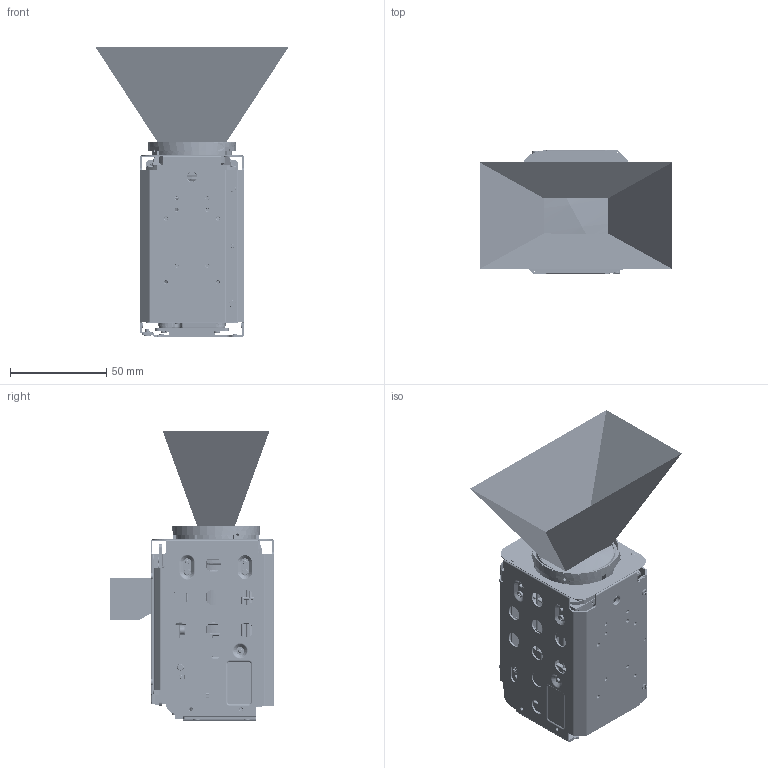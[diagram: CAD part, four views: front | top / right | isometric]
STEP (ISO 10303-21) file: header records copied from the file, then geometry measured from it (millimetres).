
FILE_DESCRIPTION((''),'2;1');
FILE_NAME('000_40LHD_ASM_1_ASM','2023-10-13T',('USER'),(''),'PRO/ENGINEER BY PARAMETRIC TECHNOLOGY CORPORATION, 2012300','PRO/ENGINEER BY PARAMETRIC TECHNOLOGY CORPORATION, 2012300','');
FILE_SCHEMA(('AUTOMOTIVE_DESIGN_CC2 { 1 2 10303 214 -1 1 5 2 }'));
Products named in the file (80): _X2_591689B3752830AB30D730C-211; _X2_591689B3752830AB30D730C-363; _X2_591689B3752830AB30D730C-513; _X2_591689B3752830AB30D730C-653; DF033N0000-Y01-_X2_5B8C621054C1_ASM; DF03300000-G01-G01_1; DF033N0000-121-_1_X2_7FA430EC30; DF033N0000-A02-1_X2_7FA4_X0_ASS_ASM; _X2_5F8C90E893E17B52_X0__1_1; _X2_5F8C90E893E17B52_X0__2_1; _X2_5F8C90E893E17B52_X0__3_1; _X2_30B230FC30C8_X0__1_1; _X2_30B230FC30C8_X0__2_1; _X2_30B230FC30C8_X0__3_1; DF033N0000-129-_X2_5F8C90E893E1_ASM; DF033N0000-A08-_X2_5F8C90E893E1_ASM; DF033N0000-151-_X2_30D530A330EB; DF02800000-G14-IRC_X2_30D530A33; DF02800000-G15-_X2_30C030DF30FC; DF033N0000-A09-_X2_30D530A330EB_ASM; DF033N0000-127-_X2_4E3B93E17B52; 1_0_X2_664265B95411_X0___X2_7C9; 1_0_X2_664265B95411_X0___X2_906; 2__X2_FF13664265B95411_X-324876; 2__X2_FF13664265B95411_X-325158; 3__X2_FF19664265B95411_X-325308; 3__X2_FF19664265B95411_X-325458; DF033N0000-316-_X2_76EE96A03057_ASM; _X2_906E514930B730FC30C8_X0___X; _X2_7C9877406750_X0___X2_30A230; DF033N0000-317-_X2_76EE96A03057_ASM; 4_0_X2_6642_X0___X2_7C987740675; 4_0_X2_6642_X0___X2_906E514930B; 5_3_X2_6642_X0___X2_7C987740675; 5_3_X2_6642_X0___X2_906E514930B; 6_9_X2_6642_X0___X2_7C987740675; 6_9_X2_6642_X0___X2_906E514930B; DF033N0000-318-_X2_76EE96A03057_ASM; DF033N0000-401-_X2_30DE30A630F3; DF033N0000-711-_X2_30A230A430EA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
Assembly tree (135 placements, depth 6):
  000_40LHD_ASM_1_ASM
    DF033N0000-ALLASSY_ASM_1_ASM
      DF033N0000-A01-_X2_5B8C621054C1_ASM
        DF033N0000-Y01-_X2_5B8C621054C1_ASM
          _X2_591689B3752830AB30D730C-211
          _X2_591689B3752830AB30D730C-363
          _X2_591689B3752830AB30D730C-513
          _X2_591689B3752830AB30D730C-653
        DF033N0000-A02-1_X2_7FA4_X0_ASS_ASM
          DF03300000-G01-G01_1
          DF033N0000-121-_1_X2_7FA430EC30
        DF033N0000-A08-_X2_5F8C90E893E1_ASM
          DF033N0000-129-_X2_5F8C90E893E1_ASM
            _X2_5F8C90E893E17B52_X0__1_1
            _X2_5F8C90E893E17B52_X0__2_1
            _X2_5F8C90E893E17B52_X0__3_1
            _X2_30B230FC30C8_X0__1_1
            _X2_30B230FC30C8_X0__2_1
            _X2_30B230FC30C8_X0__3_1
        DF033N0000-A09-_X2_30D530A330EB_ASM
          DF033N0000-151-_X2_30D530A330EB
          DF02800000-G14-IRC_X2_30D530A33
          DF02800000-G15-_X2_30C030DF30FC
        DF033N0000-127-_X2_4E3B93E17B52
        DF033N0000-316-_X2_76EE96A03057_ASM
          1_0_X2_664265B95411_X0___X2_7C9
          1_0_X2_664265B95411_X0___X2_906
          2__X2_FF13664265B95411_X-324876
          2__X2_FF13664265B95411_X-325158
          3__X2_FF19664265B95411_X-325308
          3__X2_FF19664265B95411_X-325458
        DF033N0000-317-_X2_76EE96A03057_ASM
          _X2_906E514930B730FC30C8_X0___X
          _X2_7C9877406750_X0___X2_30A230
        DF033N0000-318-_X2_76EE96A03057_ASM
          4_0_X2_6642_X0___X2_7C987740675
          4_0_X2_6642_X0___X2_906E514930B
          5_3_X2_6642_X0___X2_7C987740675
          5_3_X2_6642_X0___X2_906E514930B
          6_9_X2_6642_X0___X2_7C987740675
          6_9_X2_6642_X0___X2_906E514930B
        DF033N0000-401-_X2_30DE30A630F3
        DF033N0000-711-_X2_30A230A430EA
        DF033N0000-731-ZA_X2_30B930C630
        DF033N0000-741-ZB_X2_30B930C630  x2
        DF033N0000-751-F_X2_30B930C630C
        DF033N0000-771-IR_X2_30E130FC30_ASM
          _X2_30EC30D030FC_X0_2__X2_306E7
          _X2_53D64ED890E8_X0__1
          _X2_30A830F330B830F3_X0___X2_30
        DF033N0000-900-_X2_30E130A430F3_ASM
          _X2_88CF62533061_X0_A_1_1
          _X2_88CF62533061_X0_A_2_1
          _X2_88CF62533061_X0_A_3_1
          _X2_88CF62533061_X0_A_4_1
          _X2_88CF62533061_X0_A_5_1
          _X2_88CF62533061_X0_A_6_1
          _X2_88CF62533061_X0_B_1_1
          _X2_88CF62533061_X0_B_2_1
          _X2_88CF62533061_X0_B_3_1
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Bounding box: 100 x 85 x 150.16 mm (x, y, z)
Volume: 80071.4 mm3; surface area: 182069.1 mm2
Topology: 122 solids, 128 shells, 14133 faces, 37290 edges, 23392 vertices
Faces by surface type: cylinder 4925, plane 4701, cone 1395, torus 1270, bspline 1148, sphere 441, extrusion 224, revolution 29
Entity records: 481931 total; most frequent: CARTESIAN_POINT 165653, ORIENTED_EDGE 64908, DIRECTION 62967, EDGE_CURVE 32484, AXIS2_PLACEMENT_3D 23964, VERTEX_POINT 20523, VECTOR 15010, LINE 14786
